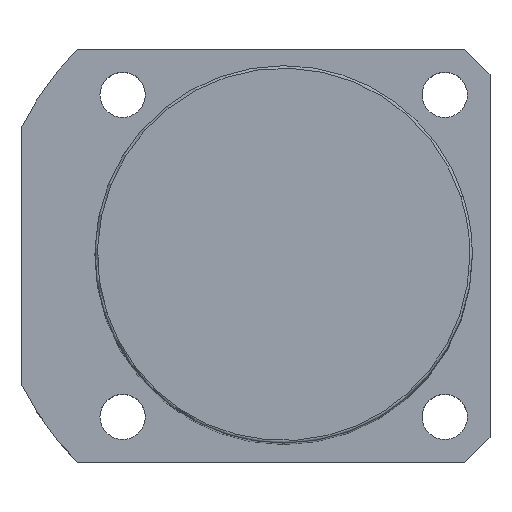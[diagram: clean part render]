
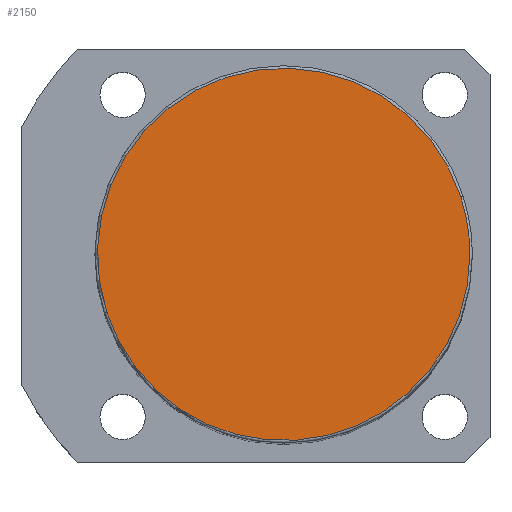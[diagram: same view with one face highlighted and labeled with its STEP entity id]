
A CAD part, top view. The second image highlights one B-rep face of the part: STEP entity #2150.
In plain terms, the highlighted planar face has unit normal (0, 0, 1).
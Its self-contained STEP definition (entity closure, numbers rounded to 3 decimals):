
#2116=CARTESIAN_POINT('',(37.0,0.0,183.0));
#2117=VERTEX_POINT('',#2116);
#2118=CARTESIAN_POINT('',(35.189,11.434,183.0));
#2119=VERTEX_POINT('',#2118);
#2120=CARTESIAN_POINT('',(0.0,0.0,183.0));
#2121=DIRECTION('',(0.0,0.0,1.0));
#2122=DIRECTION('',(1.0,0.0,0.0));
#2123=AXIS2_PLACEMENT_3D('',#2120,#2121,#2122);
#2124=CIRCLE('',#2123,37.0);
#2125=EDGE_CURVE('no 1990',#2117,#2119,#2124,.T.);
#2126=ORIENTED_EDGE('',*,*,#2125,.T.);
#2127=CARTESIAN_POINT('',(-35.189,-11.434,183.0));
#2128=VERTEX_POINT('',#2127);
#2129=CARTESIAN_POINT('',(0.0,0.0,183.0));
#2130=DIRECTION('',(0.0,0.0,1.0));
#2131=DIRECTION('',(1.0,0.0,0.0));
#2132=AXIS2_PLACEMENT_3D('',#2129,#2130,#2131);
#2133=CIRCLE('',#2132,37.0);
#2134=EDGE_CURVE('no 1996',#2119,#2128,#2133,.T.);
#2135=ORIENTED_EDGE('',*,*,#2134,.T.);
#2136=CARTESIAN_POINT('',(0.0,0.0,183.0));
#2137=DIRECTION('',(0.0,0.0,1.0));
#2138=DIRECTION('',(1.0,0.0,0.0));
#2139=AXIS2_PLACEMENT_3D('',#2136,#2137,#2138);
#2140=CIRCLE('',#2139,37.0);
#2141=EDGE_CURVE('no 2000',#2128,#2117,#2140,.T.);
#2142=ORIENTED_EDGE('',*,*,#2141,.T.);
#2143=EDGE_LOOP('',(#2126,#2135,#2142));
#2144=FACE_OUTER_BOUND('',#2143,.T.);
#2145=CARTESIAN_POINT('',(0.0,0.0,183.0));
#2146=DIRECTION('',(0.0,0.0,1.0));
#2147=DIRECTION('',(1.0,0.0,0.0));
#2148=AXIS2_PLACEMENT_3D('',#2145,#2146,#2147);
#2149=PLANE('',#2148);
#2150=ADVANCED_FACE('no 1981',(#2144),#2149,.T.);
